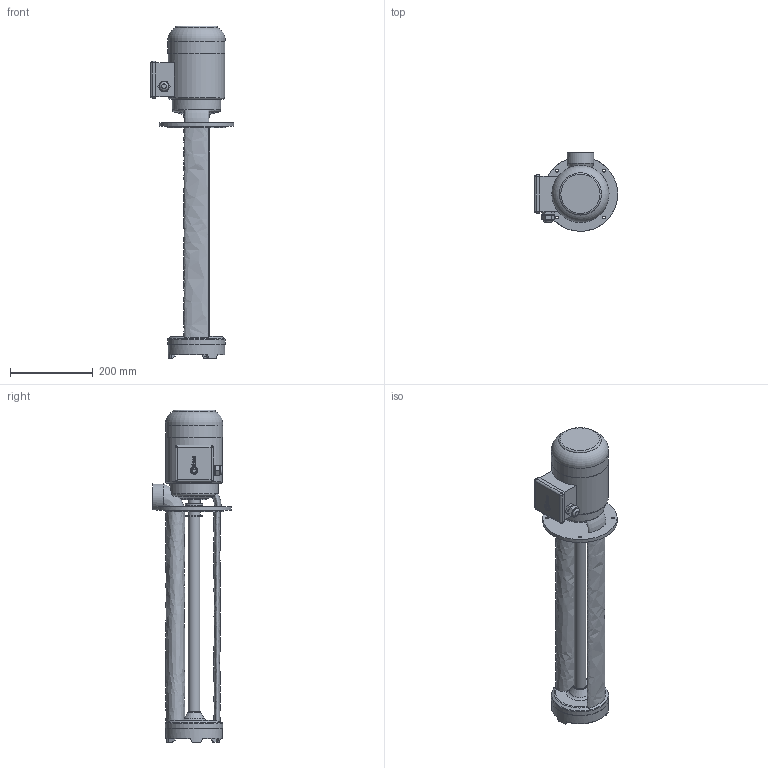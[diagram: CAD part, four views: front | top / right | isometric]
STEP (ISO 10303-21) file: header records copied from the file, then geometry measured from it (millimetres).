
FILE_DESCRIPTION(/* description */ ('Unknown'),/* implementation_level */ '2;1');
FILE_NAME(/* name */ 'EPV 250-560',/* time_stamp */ '2025-05-30T15:11:41+03:00',/* author */ ('Unknown'),/* organization */ ('Unknown'),/* preprocessor_version */ 'ST-DEVELOPER v16.7',/* originating_system */ 'DEX',/* authorisation */ $);
FILE_SCHEMA (('AUTOMOTIVE_DESIGN {1 0 10303 214 3 1 1}'));
Length unit declared in the file: millimetre
Products named in the file (1): EPV 250-560
Bounding box: 201.5 x 190 x 802.36 mm (x, y, z)
Volume: 6161794.2 mm3; surface area: 444319.6 mm2
Topology: 1 solids, 1 shells, 268 faces, 678 edges, 435 vertices
Faces by surface type: plane 91, bspline 81, cylinder 56, torus 26, cone 14
Full cylindrical faces by diameter (mm): 7 x4, 17 x1, 21.5 x1, 28 x1, 29 x3, 30 x1, 42 x2, 44 x1, 48 x1, 62 x1, 94 x1, 116.969 x1, 136.473 x1, 137 x1, 137.994 x1, 139 x1, 140 x1, 180 x1
Entity records: 11389 total; most frequent: CARTESIAN_POINT 5687, ORIENTED_EDGE 1212, DIRECTION 973, EDGE_CURVE 606, VERTEX_POINT 419, AXIS2_PLACEMENT_3D 372, EDGE_LOOP 363, FACE_BOUND 363
